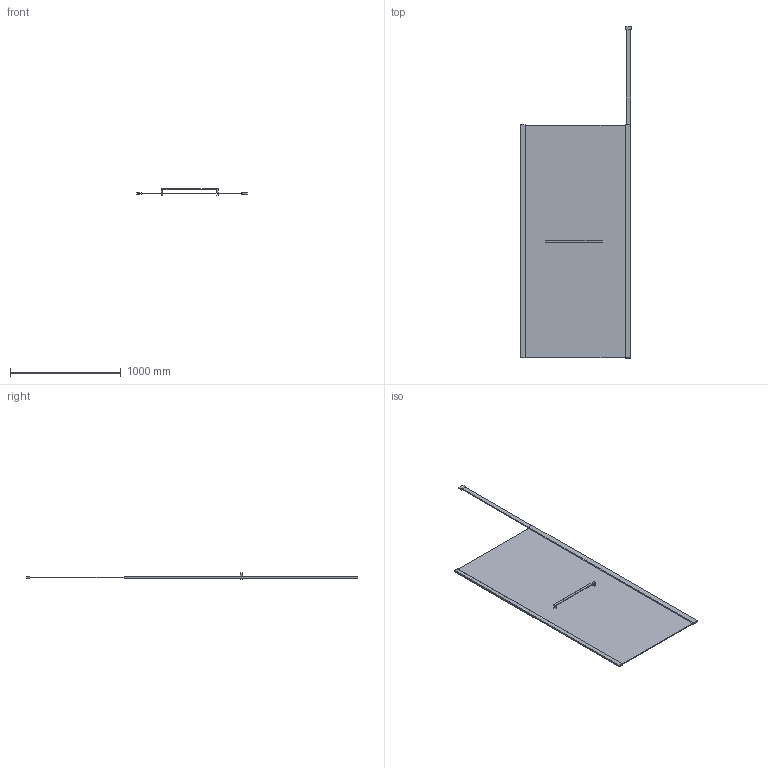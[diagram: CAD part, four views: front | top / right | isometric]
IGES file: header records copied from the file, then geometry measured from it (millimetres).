
Start section: SolidWorks IGES file using analytic representation for surfaces
Global section: file name: D:\Users\M.Szymanski\Desktop\Kabiny\PI_ALTIIa\PI_ALTIIa_100_wspornik pionowy_K3D.IGS; native system: SolidWorks 2011; preprocessor: SolidWorks 2011; author: M.Szymanski; date: 181002.135856; units: millimetre
Bounding box: 999.9 x 3000 x 54.5 mm (x, y, z)
Surface area: 4840824.2 mm2 (no closed solid volume)
Topology: 0 solids, 0 shells, 49 faces, 324 edges, 432 vertices
Faces by surface type: bspline 49
